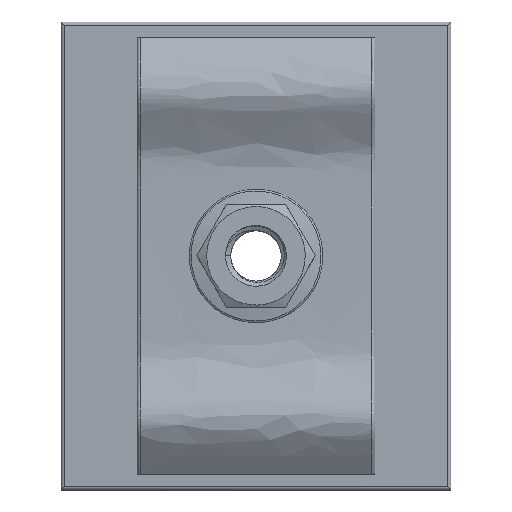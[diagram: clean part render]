
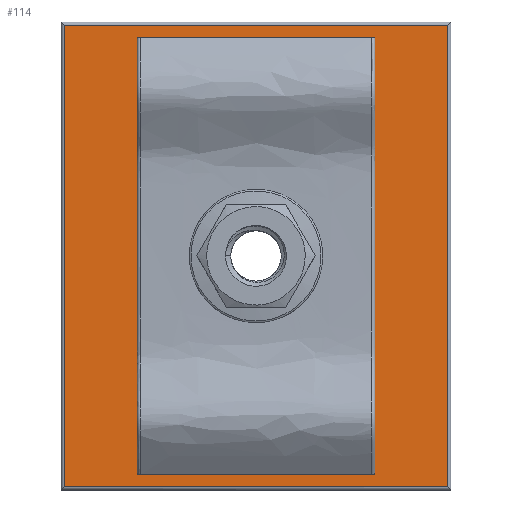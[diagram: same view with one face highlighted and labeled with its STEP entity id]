
A CAD part, top view. The second image highlights one B-rep face of the part: STEP entity #114.
In plain terms, the highlighted planar face has unit normal (0, 0, 1).
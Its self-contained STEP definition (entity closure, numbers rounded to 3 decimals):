
#33=FACE_BOUND('',#290,.T.);
#114=ADVANCED_FACE('',(#199,#33),#1316,.T.);
#199=FACE_OUTER_BOUND('',#289,.T.);
#289=EDGE_LOOP('',(#683,#684,#685,#686));
#290=EDGE_LOOP('',(#687));
#683=ORIENTED_EDGE('',*,*,#907,.T.);
#684=ORIENTED_EDGE('',*,*,#908,.T.);
#685=ORIENTED_EDGE('',*,*,#910,.T.);
#686=ORIENTED_EDGE('',*,*,#909,.T.);
#687=ORIENTED_EDGE('',*,*,#902,.F.);
#902=EDGE_CURVE('',#1248,#1248,#1125,.T.);
#907=EDGE_CURVE('',#1254,#1255,#1015,.T.);
#908=EDGE_CURVE('',#1255,#1256,#1016,.T.);
#909=EDGE_CURVE('',#1257,#1254,#1017,.T.);
#910=EDGE_CURVE('',#1256,#1257,#1018,.T.);
#1015=B_SPLINE_CURVE_WITH_KNOTS('',1,(#6954,#6955),.UNSPECIFIED.,.F.,.F.,
(2,2),(0.4,49.6),.UNSPECIFIED.);
#1016=B_SPLINE_CURVE_WITH_KNOTS('',1,(#6956,#6957),.UNSPECIFIED.,.F.,.F.,
(2,2),(0.4,59.6),.UNSPECIFIED.);
#1017=B_SPLINE_CURVE_WITH_KNOTS('',1,(#6958,#6959),.UNSPECIFIED.,.F.,.F.,
(2,2),(0.4,59.6),.UNSPECIFIED.);
#1018=B_SPLINE_CURVE_WITH_KNOTS('',1,(#6960,#6961),.UNSPECIFIED.,.F.,.F.,
(2,2),(0.4,49.6),.UNSPECIFIED.);
#1125=(
BOUNDED_CURVE()
B_SPLINE_CURVE(2,(#6937,#6938,#6939,#6940,#6941,#6942,#6943,#6944,#6945),
 .UNSPECIFIED.,.T.,.F.)
B_SPLINE_CURVE_WITH_KNOTS((3,2,2,2,3),(0.,7.225,14.451,
21.676,28.902),.UNSPECIFIED.)
CURVE()
GEOMETRIC_REPRESENTATION_ITEM()
RATIONAL_B_SPLINE_CURVE((1.,0.707,1.,0.707,1.,0.707,
1.,0.707,1.))
REPRESENTATION_ITEM('')
);
#1248=VERTEX_POINT('',#6888);
#1254=VERTEX_POINT('',#6894);
#1255=VERTEX_POINT('',#6895);
#1256=VERTEX_POINT('',#6896);
#1257=VERTEX_POINT('',#6897);
#1316=PLANE('',#1567);
#1567=AXIS2_PLACEMENT_3D('',#6878,#1626,$);
#1626=DIRECTION('',(0.,0.,1.));
#6878=CARTESIAN_POINT('',(-25.,-30.,2.4));
#6888=CARTESIAN_POINT('',(4.6,0.,2.4));
#6894=CARTESIAN_POINT('',(24.6,29.6,2.4));
#6895=CARTESIAN_POINT('',(-24.6,29.6,2.4));
#6896=CARTESIAN_POINT('',(-24.6,-29.6,2.4));
#6897=CARTESIAN_POINT('',(24.6,-29.6,2.4));
#6937=CARTESIAN_POINT('',(4.6,0.,2.4));
#6938=CARTESIAN_POINT('',(4.6,4.6,2.4));
#6939=CARTESIAN_POINT('',(0.,4.6,2.4));
#6940=CARTESIAN_POINT('',(-4.6,4.6,2.4));
#6941=CARTESIAN_POINT('',(-4.6,0.,2.4));
#6942=CARTESIAN_POINT('',(-4.6,-4.6,2.4));
#6943=CARTESIAN_POINT('',(0.,-4.6,2.4));
#6944=CARTESIAN_POINT('',(4.6,-4.6,2.4));
#6945=CARTESIAN_POINT('',(4.6,0.,2.4));
#6954=CARTESIAN_POINT('',(24.6,29.6,2.4));
#6955=CARTESIAN_POINT('',(-24.6,29.6,2.4));
#6956=CARTESIAN_POINT('',(-24.6,29.6,2.4));
#6957=CARTESIAN_POINT('',(-24.6,-29.6,2.4));
#6958=CARTESIAN_POINT('',(24.6,-29.6,2.4));
#6959=CARTESIAN_POINT('',(24.6,29.6,2.4));
#6960=CARTESIAN_POINT('',(-24.6,-29.6,2.4));
#6961=CARTESIAN_POINT('',(24.6,-29.6,2.4));
